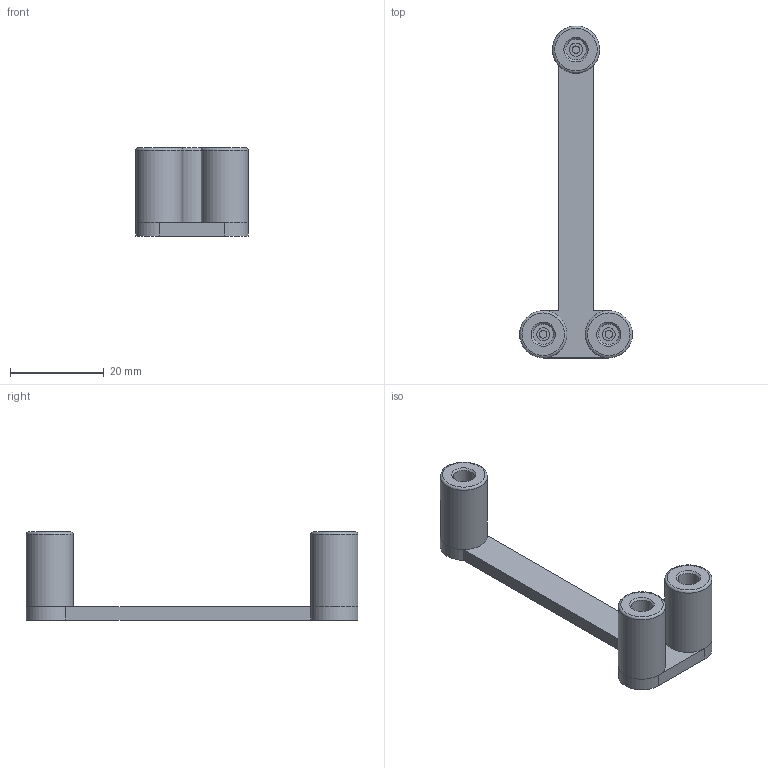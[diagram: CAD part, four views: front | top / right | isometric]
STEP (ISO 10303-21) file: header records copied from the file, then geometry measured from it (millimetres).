
FILE_DESCRIPTION(/* description */ (''),/* implementation_level */ '2;1');
FILE_NAME(/* name */ 'V:\Flow\Inventor\PEEK\Mischertest\Kreuzmischer_PEEK_1,6mm - 0,5Kreuz.stp',/* time_stamp */ '2019-12-20T09:18:54+01:00',/* author */ ('JN'),/* organization */ (''),/* preprocessor_version */ 'ST-DEVELOPER v17',/* originating_system */ 'Autodesk Inventor 2018',/* authorisation */ '');
FILE_SCHEMA (('AUTOMOTIVE_DESIGN { 1 0 10303 214 3 1 1 }'));
Length unit declared in the file: millimetre
Products named in the file (3): Reaktor 1; Reaktor_1_PEEK; Luer - 10-32  Adapter
Assembly tree (4 placements, depth 2):
  Reaktor 1
    Reaktor_1_PEEK
    Luer - 10-32  Adapter  x3
Bounding box: 24.08 x 70.88 x 18.8 mm (x, y, z)
Volume: 5061.5 mm3; surface area: 5260.7 mm2
Topology: 4 solids, 4 shells, 684 faces, 2027 edges, 1353 vertices
Faces by surface type: plane 663, cylinder 15, torus 3, cone 3
Full cylindrical faces by diameter (mm): 1.6 x3, 2.8 x3, 4.4 x3, 10.08 x3
Entity records: 22606 total; most frequent: CARTESIAN_POINT 3997, ORIENTED_EDGE 3986, DIRECTION 3373, EDGE_CURVE 1993, LINE 1963, VECTOR 1963, VERTEX_POINT 1329, EDGE_LOOP 914
